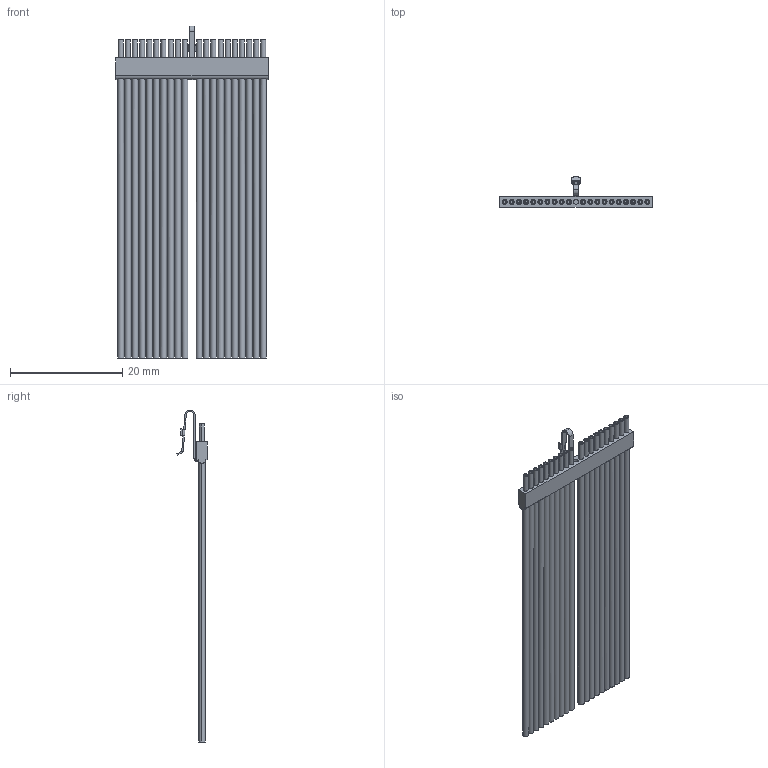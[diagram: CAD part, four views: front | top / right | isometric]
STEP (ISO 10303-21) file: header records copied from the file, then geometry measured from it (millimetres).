
FILE_DESCRIPTION (( 'STEP AP214' ), '1' );
FILE_NAME ('A25000-020.STEP', '2015-11-04T14:29:21', ( '' ), ( '' ), 'SwSTEP 2.0', 'SolidWorks 2015', '' );
FILE_SCHEMA (( 'AUTOMOTIVE_DESIGN' ));
Length unit declared in the file: inch
Products named in the file (1): A25000-020
Bounding box: 27.18 x 5.45 x 59.11 mm (x, y, z)
Volume: 1135.3 mm3; surface area: 4457.6 mm2
Topology: 1 solids, 21 shells, 686 faces, 1538 edges, 1010 vertices
Faces by surface type: cylinder 299, plane 296, bspline 48, torus 43
Entity records: 22429 total; most frequent: CARTESIAN_POINT 6761, DIRECTION 3327, ORIENTED_EDGE 3076, EDGE_CURVE 1538, AXIS2_PLACEMENT_3D 1288, VERTEX_POINT 1010, EDGE_LOOP 842, LINE 751
